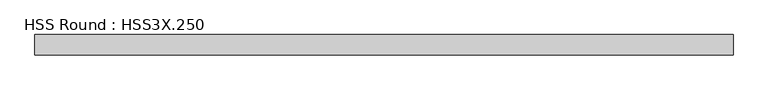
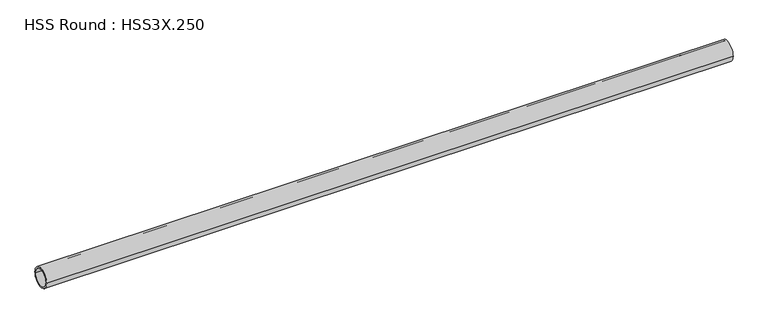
"""IFC4 building model written with IfcOpenShell, lengths in millimetres: member geometry, HSS Round : HSS3X.250."""

from ifc_helpers import new_model, si_unit, point, frame, origin, origin_2d, place, context, project, spatial, circle_curve, trimmed, segment, composite_curve, outline, extrude, source, transform, mapped, element, save


def hss_round_hss3x_250_69b59b5c(model_context):
    return source(origin(), model_context, "Body", "SweptSolid", [
        extrude(outline(composite_curve([segment(trimmed(circle_curve(origin_2d(), 38.1), [point((-38.1, 0.0))], [point((38.1, 0.0))], False, "CARTESIAN"), True, "CONTINUOUS"), segment(trimmed(circle_curve(origin_2d(), 38.1), [point((38.1, 0.0))], [point((-38.1, 0.0))], False, "CARTESIAN"), True, "CONTINUOUS")], self_intersect=False), holes=[composite_curve([segment(trimmed(circle_curve(origin_2d(), 31.75), [point((31.75, 0.0))], [point((-31.75, 0.0))], True, "CARTESIAN"), True, "CONTINUOUS"), segment(trimmed(circle_curve(origin_2d(), 31.75), [point((-31.75, 0.0))], [point((31.75, 0.0))], True, "CARTESIAN"), True, "CONTINUOUS")], self_intersect=False)]), frame((-1265.1090267, 0.0, 0.0), z_axis=(1.0, 0.0, 0.0), x_axis=(0.0, 1.0, 0.0)), (0.0, 0.0, 1.0), 2588.1788435),
    ])


if __name__ == "__main__":
    model = new_model("IFC4")
    model_context = context("Model", 3, world=origin())
    ifc_project = project(units=[si_unit("LENGTHUNIT", "METRE", prefix="MILLI")], contexts=[model_context])
    site = spatial("IfcSite", under=ifc_project)
    building = spatial("IfcBuilding", under=site)
    placement = place(None, origin())
    hss_round_hss3x_250_shape = hss_round_hss3x_250_69b59b5c(model_context)
    element("IfcMember", 1, ObjectType="HSS Round : HSS3X.250", at=placement, inside=building, context=model_context, shape_type="MappedRepresentation", body=[
        mapped(hss_round_hss3x_250_shape, transform((0.0, 0.0, 0.0), x_axis=(1.0, 0.0, 0.0), y_axis=(0.0, 1.0, 0.0), z_axis=(0.0, 0.0, 1.0))),
    ])
    save(model, "model.ifc")
